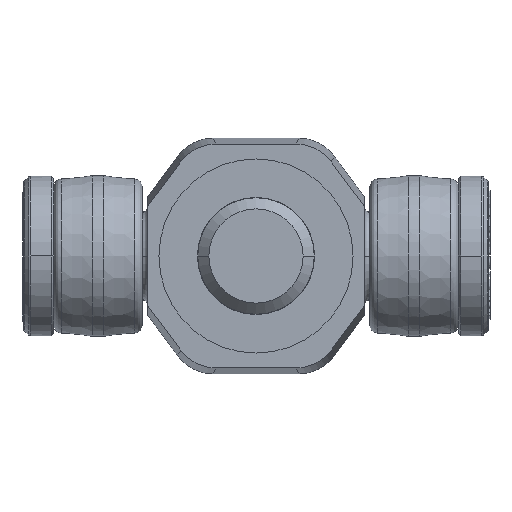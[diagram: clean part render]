
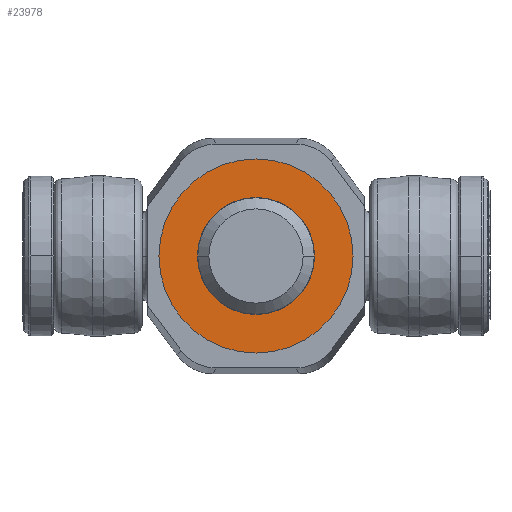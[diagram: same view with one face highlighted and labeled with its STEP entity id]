
A CAD part, front view. The second image highlights one B-rep face of the part: STEP entity #23978.
In plain terms, the highlighted planar face has unit normal (0, -1, 0) as drawn and (0, 0, -1) by its records, which use the part's own axes.
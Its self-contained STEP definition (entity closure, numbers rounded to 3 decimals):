
#22100=CARTESIAN_POINT('',(0.,0.,-5.5));
#22101=DIRECTION('',(0.,0.,-1.));
#22102=DIRECTION('',(-1.,0.,0.));
#22103=AXIS2_PLACEMENT_3D('',#22100,#22101,#22102);
#22105=CARTESIAN_POINT('',(0.,0.,-5.5));
#22106=DIRECTION('',(0.,0.,-1.));
#22107=DIRECTION('',(1.,0.,0.));
#22108=AXIS2_PLACEMENT_3D('',#22105,#22106,#22107);
#22110=CARTESIAN_POINT('',(0.,0.,-5.5));
#22111=DIRECTION('',(0.,0.,1.));
#22112=DIRECTION('',(0.,1.,0.));
#22113=AXIS2_PLACEMENT_3D('',#22110,#22111,#22112);
#22115=CARTESIAN_POINT('',(0.,0.,-5.5));
#22116=DIRECTION('',(0.,0.,1.));
#22117=DIRECTION('',(0.,-1.,0.));
#22118=AXIS2_PLACEMENT_3D('',#22115,#22116,#22117);
#22461=CARTESIAN_POINT('',(-35.,0.,-5.5));
#22462=CARTESIAN_POINT('',(35.,0.,-5.5));
#22463=VERTEX_POINT('',#22461);
#22464=VERTEX_POINT('',#22462);
#22473=CARTESIAN_POINT('',(0.,21.1,-5.5));
#22474=CARTESIAN_POINT('',(0.,-21.1,-5.5));
#22475=VERTEX_POINT('',#22473);
#22476=VERTEX_POINT('',#22474);
#23963=CARTESIAN_POINT('',(0.,-65.2,-5.5));
#23964=DIRECTION('',(0.,0.,-1.));
#23965=DIRECTION('',(-1.,0.,0.));
#23966=AXIS2_PLACEMENT_3D('',#23963,#23964,#23965);
#23967=PLANE('',#23966);
#23969=ORIENTED_EDGE('',*,*,#23968,.F.);
#23971=ORIENTED_EDGE('',*,*,#23970,.F.);
#23972=EDGE_LOOP('',(#23969,#23971));
#23973=FACE_OUTER_BOUND('',#23972,.F.);
#23974=ORIENTED_EDGE('',*,*,#23943,.F.);
#23975=ORIENTED_EDGE('',*,*,#23957,.F.);
#23976=EDGE_LOOP('',(#23974,#23975));
#23977=FACE_BOUND('',#23976,.F.);
#23978=ADVANCED_FACE('',(#23973,#23977),#23967,.T.);
#22104=CIRCLE('',#22103,35.);
#22109=CIRCLE('',#22108,35.);
#22114=CIRCLE('',#22113,21.1);
#22119=CIRCLE('',#22118,21.1);
#23943=EDGE_CURVE('',#22475,#22476,#22114,.T.);
#23957=EDGE_CURVE('',#22476,#22475,#22119,.T.);
#23968=EDGE_CURVE('',#22463,#22464,#22104,.T.);
#23970=EDGE_CURVE('',#22464,#22463,#22109,.T.);
